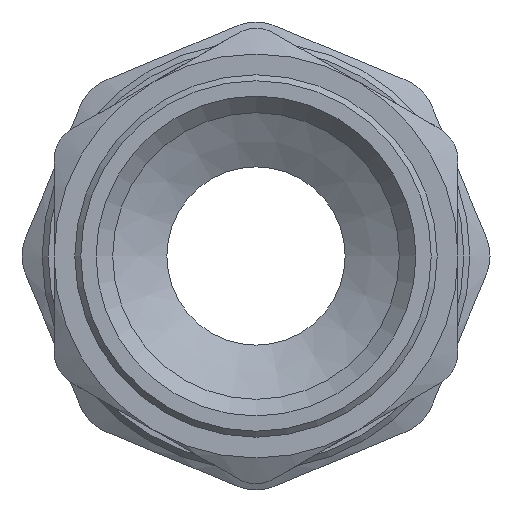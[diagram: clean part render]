
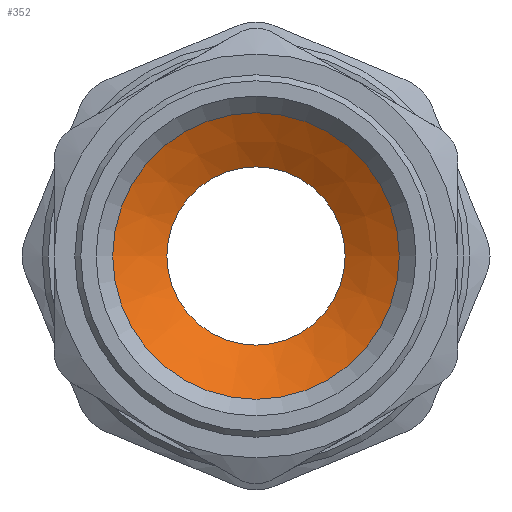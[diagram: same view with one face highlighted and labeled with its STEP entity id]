
A CAD part, front view. The second image highlights one B-rep face of the part: STEP entity #352.
In plain terms, the highlighted conical face has half-angle 60 degrees and reference radius 9.78 mm.
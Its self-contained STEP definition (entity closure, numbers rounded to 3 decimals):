
#352=ADVANCED_FACE('',(#2441,#2443),#2445,.F.);
#2441=FACE_OUTER_BOUND('',#2442,.T.);
#2442=EDGE_LOOP('',(#4577));
#2443=FACE_OUTER_BOUND('',#2444,.T.);
#2444=EDGE_LOOP('',(#4578));
#2445=CONICAL_SURFACE('',#2446,9.779,1.047);
#2446=AXIS2_PLACEMENT_3D('',#2447,#2448,#2449);
#2447=CARTESIAN_POINT('',(0.,20.316,0.));
#2448=DIRECTION('',(0.,-1.,0.));
#2449=DIRECTION('',(1.,0.,0.));
#4577=ORIENTED_EDGE('',*,*,#5415,.T.);
#4578=ORIENTED_EDGE('',*,*,#5417,.F.);
#5415=EDGE_CURVE('',#6767,#6767,#6768,.T.);
#5417=EDGE_CURVE('',#6771,#6771,#6772,.T.);
#6767=VERTEX_POINT('',#12482);
#6768=CIRCLE('',#12483,12.059);
#6771=VERTEX_POINT('',#12492);
#6772=CIRCLE('',#12493,7.5);
#12482=CARTESIAN_POINT('',(12.059,19.,0.));
#12483=AXIS2_PLACEMENT_3D('',#12484,#12485,#12486);
#12484=CARTESIAN_POINT('',(0.,19.,0.));
#12485=DIRECTION('',(0.,-1.,0.));
#12486=DIRECTION('',(1.,0.,0.));
#12492=CARTESIAN_POINT('',(7.5,21.632,0.));
#12493=AXIS2_PLACEMENT_3D('',#12494,#12495,#12496);
#12494=CARTESIAN_POINT('',(0.,21.632,0.));
#12495=DIRECTION('',(0.,-1.,0.));
#12496=DIRECTION('',(1.,0.,0.));
